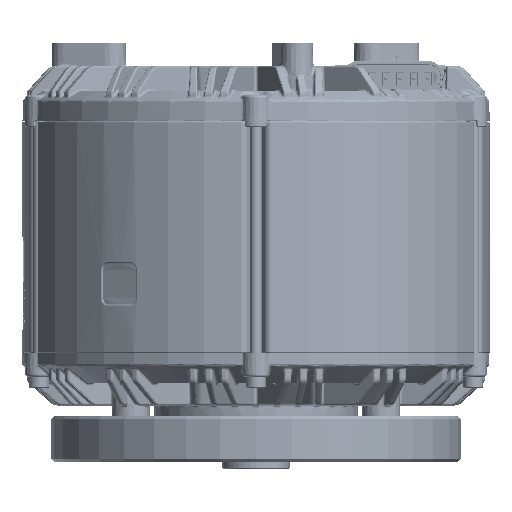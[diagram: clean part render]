
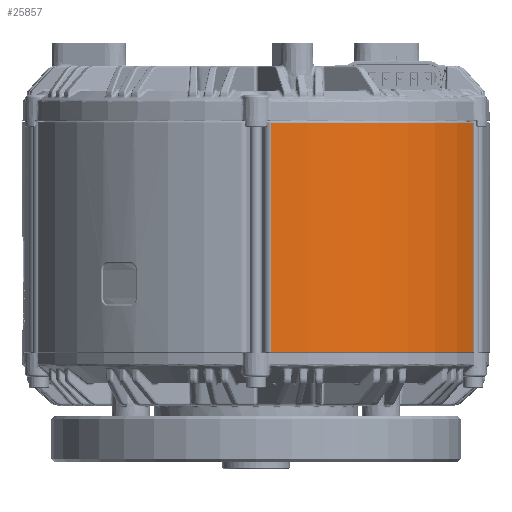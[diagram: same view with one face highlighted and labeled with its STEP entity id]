
A CAD part, front view. The second image highlights one B-rep face of the part: STEP entity #25857.
In plain terms, the highlighted cylindrical face has radius 100.5 mm (diameter 201 mm), a partial arc.
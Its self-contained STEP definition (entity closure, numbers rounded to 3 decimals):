
#3110 = CYLINDRICAL_SURFACE ( 'NONE', #255349, 100.5 ) ;
#5771 = ORIENTED_EDGE ( 'NONE', *, *, #286322, .T. ) ;
#22971 = CARTESIAN_POINT ( 'NONE',  ( -6.485, -100.291, -57.58 ) ) ;
#25857 = ADVANCED_FACE ( 'NONE', ( #39148 ), #3110, .T. ) ;
#39148 = FACE_OUTER_BOUND ( 'NONE', #401756, .T. ) ;
#40781 = CARTESIAN_POINT ( 'NONE',  ( -6.485, -100.291, 49.1 ) ) ;
#43529 = CARTESIAN_POINT ( 'NONE',  ( -6.485, -100.291, -49.3 ) ) ;
#49485 = EDGE_CURVE ( 'NONE', #84354, #89946, #357923, .T. ) ;
#52799 = CARTESIAN_POINT ( 'NONE',  ( 0., 0., -57.58 ) ) ;
#64507 = DIRECTION ( 'NONE',  ( 0., 0., 1. ) ) ;
#67949 = ORIENTED_EDGE ( 'NONE', *, *, #134872, .T. ) ;
#84354 = VERTEX_POINT ( 'NONE', #43529 ) ;
#89946 = VERTEX_POINT ( 'NONE', #40781 ) ;
#94853 = DIRECTION ( 'NONE',  ( 0., 0., -1. ) ) ;
#134872 = EDGE_CURVE ( 'NONE', #89946, #260168, #482962, .T. ) ;
#167396 = DIRECTION ( 'NONE',  ( 0., 0., -1. ) ) ;
#187024 = ORIENTED_EDGE ( 'NONE', *, *, #390070, .T. ) ;
#193627 = VECTOR ( 'NONE', #64507, 1000. ) ;
#203399 = VECTOR ( 'NONE', #167396, 1000. ) ;
#255349 = AXIS2_PLACEMENT_3D ( 'NONE', #52799, #296542, #390494 ) ;
#260168 = VERTEX_POINT ( 'NONE', #525723 ) ;
#269234 = CARTESIAN_POINT ( 'NONE',  ( 0., 0., 49.1 ) ) ;
#286322 = EDGE_CURVE ( 'NONE', #544420, #84354, #322912, .T. ) ;
#296542 = DIRECTION ( 'NONE',  ( 0., 0., 1. ) ) ;
#300225 = LINE ( 'NONE', #468943, #203399 ) ;
#305173 = AXIS2_PLACEMENT_3D ( 'NONE', #408735, #325757, #452989 ) ;
#322912 = CIRCLE ( 'NONE', #305173, 100.5 ) ;
#325757 = DIRECTION ( 'NONE',  ( 0., 0., 1. ) ) ;
#346869 = DIRECTION ( 'NONE',  ( -1., 0., 0. ) ) ;
#357923 = LINE ( 'NONE', #22971, #193627 ) ;
#390070 = EDGE_CURVE ( 'NONE', #260168, #544420, #300225, .T. ) ;
#390494 = DIRECTION ( 'NONE',  ( 1., 0., 0. ) ) ;
#394496 = AXIS2_PLACEMENT_3D ( 'NONE', #269234, #94853, #346869 ) ;
#401756 = EDGE_LOOP ( 'NONE', ( #187024, #5771, #461445, #67949 ) ) ;
#408735 = CARTESIAN_POINT ( 'NONE',  ( 0., 0., -49.3 ) ) ;
#452989 = DIRECTION ( 'NONE',  ( 1., 0., 0. ) ) ;
#461445 = ORIENTED_EDGE ( 'NONE', *, *, #49485, .T. ) ;
#468943 = CARTESIAN_POINT ( 'NONE',  ( -93.378, -37.159, -57.58 ) ) ;
#482962 = CIRCLE ( 'NONE', #394496, 100.5 ) ;
#524449 = CARTESIAN_POINT ( 'NONE',  ( -93.378, -37.159, -49.3 ) ) ;
#525723 = CARTESIAN_POINT ( 'NONE',  ( -93.378, -37.159, 49.1 ) ) ;
#544420 = VERTEX_POINT ( 'NONE', #524449 ) ;
